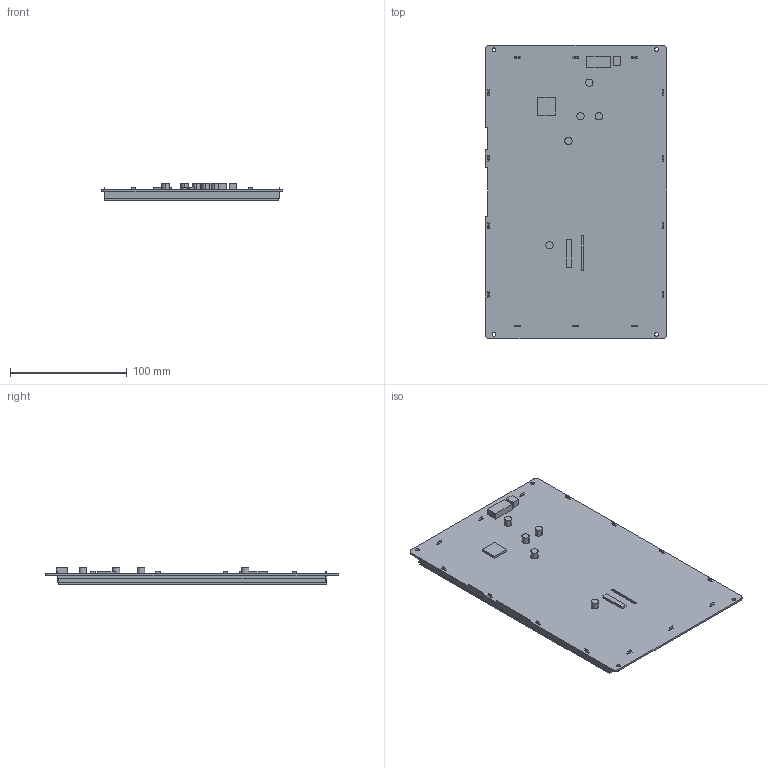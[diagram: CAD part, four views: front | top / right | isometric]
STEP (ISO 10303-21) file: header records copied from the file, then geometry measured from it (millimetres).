
FILE_DESCRIPTION((''),'2;1');
FILE_NAME('3D-DMG12800K101-03WTR','2022-02-17T',('Administrator'),(''),'PRO/ENGINEER BY PARAMETRIC TECHNOLOGY CORPORATION, 2011310','PRO/ENGINEER BY PARAMETRIC TECHNOLOGY CORPORATION, 2011310','');
FILE_SCHEMA(('CONFIG_CONTROL_DESIGN','SHAPE_APPEARANCE_LAYERS_GROUPS'));
Length unit declared in the file: millimetre
Products named in the file (1): 3D-DMG12800K101-03WTR
Bounding box: 155.32 x 251.55 x 15.1 mm (x, y, z)
Volume: 227097.5 mm3; surface area: 222718.9 mm2
Topology: 1 solids, 2 shells, 284 faces, 862 edges, 556 vertices
Faces by surface type: plane 260, cylinder 24
Entity records: 11460 total; most frequent: ORIENTED_EDGE 1724, CARTESIAN_POINT 1702, DIRECTION 1478, EDGE_CURVE 862, VECTOR 814, LINE 814, VERTEX_POINT 556, AXIS2_PLACEMENT_3D 332
